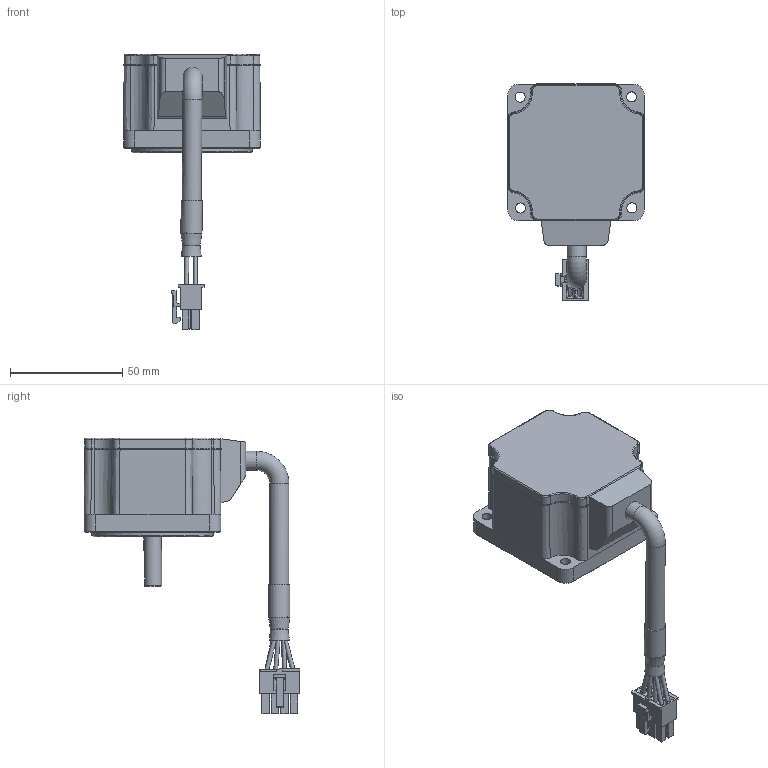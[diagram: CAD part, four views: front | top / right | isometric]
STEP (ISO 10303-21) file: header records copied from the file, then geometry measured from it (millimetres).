
FILE_DESCRIPTION((''),'2;1');
FILE_NAME('C:\Users\AHN\Desktop\BLDC 홈페이지용\K6XS30N2.stp','2020-08-20T17:32:42',('AHN'),(''),'Autodesk Inventor 2009','Autodesk Inventor 2009','');
FILE_SCHEMA(('AUTOMOTIVE_DESIGN { 1 0 10303 214 1 1 1 1 }'));
Length unit declared in the file: inch
Products named in the file (7): K6LS30N2; Solid1_3; Solid11_3; x타입 케이블; 부품35_1; 부품35_2; 하우징
Assembly tree (6 placements, depth 3):
  K6LS30N2
    Solid1_3
    Solid11_3
    x타입 케이블
      부품35_1
      부품35_2
      하우징
Bounding box: 61.1 x 96.26 x 122.84 mm (x, y, z)
Volume: 157239.2 mm3; surface area: 33625.8 mm2
Topology: 4 solids, 13 shells, 484 faces, 1261 edges, 814 vertices
Faces by surface type: plane 366, cylinder 77, cone 15, bspline 13, torus 13
Full cylindrical faces by diameter (mm): 1.75 x10, 2.8 x8, 4.5 x4, 7.5 x1, 8 x1, 8.5 x2, 9 x1, 9.4 x1, 54 x1
Entity records: 15102 total; most frequent: CARTESIAN_POINT 3185, ORIENTED_EDGE 2412, DIRECTION 2349, EDGE_CURVE 1206, VECTOR 967, LINE 967, VERTEX_POINT 802, AXIS2_PLACEMENT_3D 691
